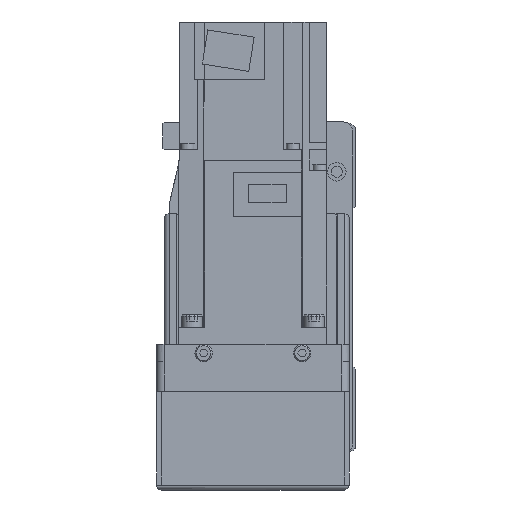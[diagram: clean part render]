
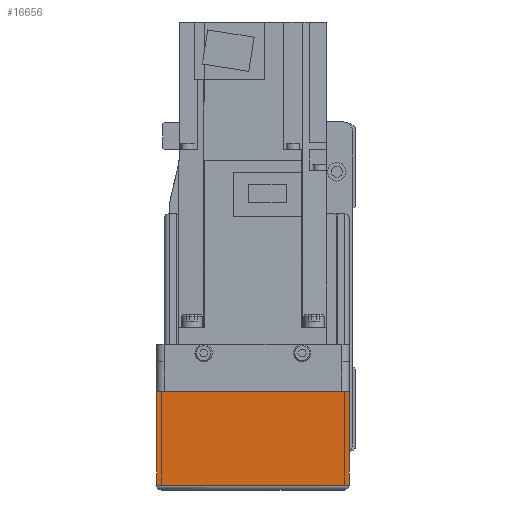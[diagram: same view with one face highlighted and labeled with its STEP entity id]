
A CAD part, left-side view. The second image highlights one B-rep face of the part: STEP entity #16656.
In plain terms, the highlighted planar face has unit normal (-1, 0, 0).
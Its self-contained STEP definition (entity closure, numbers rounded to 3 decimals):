
#2528=ORIENTED_EDGE('',*,*,#6711,.F.);
#2529=ORIENTED_EDGE('',*,*,#6712,.F.);
#2530=ORIENTED_EDGE('',*,*,#6713,.T.);
#2531=ORIENTED_EDGE('',*,*,#6714,.F.);
#6711=EDGE_CURVE('',#8901,#8892,#10618,.T.);
#6712=EDGE_CURVE('',#8918,#8901,#10619,.T.);
#6713=EDGE_CURVE('',#8918,#8919,#10620,.T.);
#6714=EDGE_CURVE('',#8892,#8919,#10621,.T.);
#8892=VERTEX_POINT('',#25622);
#8901=VERTEX_POINT('',#25640);
#8918=VERTEX_POINT('',#25688);
#8919=VERTEX_POINT('',#25690);
#10618=LINE('',#25686,#12181);
#10619=LINE('',#25687,#12182);
#10620=LINE('',#25689,#12183);
#10621=LINE('',#25691,#12184);
#12181=VECTOR('',#20572,1000.);
#12182=VECTOR('',#20573,1000.);
#12183=VECTOR('',#20574,1000.);
#12184=VECTOR('',#20575,1000.);
#13576=EDGE_LOOP('',(#2528,#2529,#2530,#2531));
#14841=FACE_BOUND('',#13576,.T.);
#15947=PLANE('',#17858);
#16656=ADVANCED_FACE('',(#14841),#15947,.F.);
#17858=AXIS2_PLACEMENT_3D('',#25685,#20570,#20571);
#20570=DIRECTION('',(1.,0.,0.));
#20571=DIRECTION('',(0.,0.,-1.));
#20572=DIRECTION('',(0.,-1.,0.));
#20573=DIRECTION('',(0.,0.,1.));
#20574=DIRECTION('',(0.,-1.,0.));
#20575=DIRECTION('',(0.,0.,-1.));
#25622=CARTESIAN_POINT('',(-158.,-39.,-12.1));
#25640=CARTESIAN_POINT('',(-158.,39.,-12.1));
#25685=CARTESIAN_POINT('',(-158.,36.,7.));
#25686=CARTESIAN_POINT('',(-158.,50.,-12.1));
#25687=CARTESIAN_POINT('',(-158.,39.,-50.));
#25688=CARTESIAN_POINT('',(-158.,39.,-50.));
#25689=CARTESIAN_POINT('',(-158.,40.,-50.));
#25690=CARTESIAN_POINT('',(-158.,-39.,-50.));
#25691=CARTESIAN_POINT('',(-158.,-39.,-12.1));
